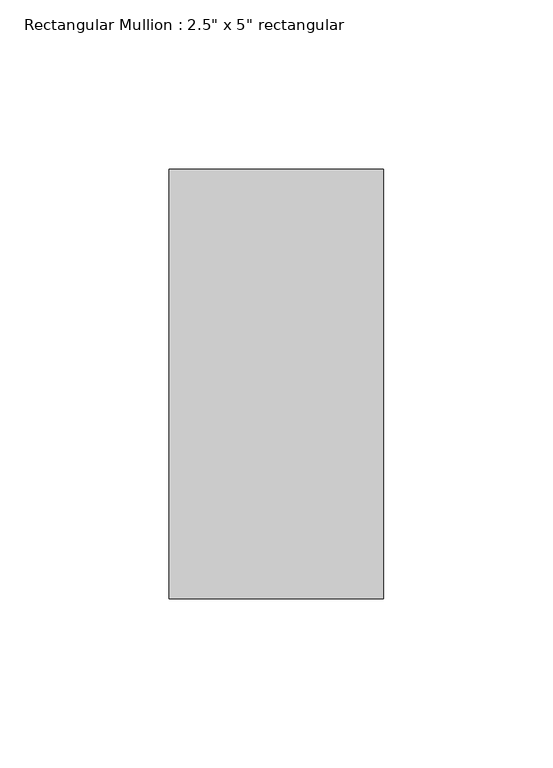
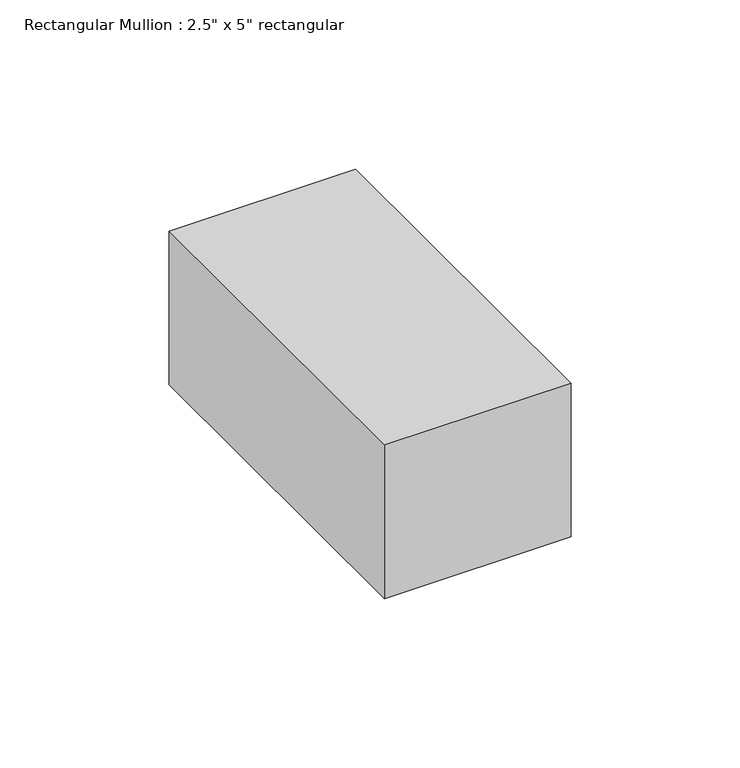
"""IFC4 building model written with IfcOpenShell, lengths in millimetres: member geometry."""

from ifc_helpers import new_model, si_unit, frame, origin, place, context, project, spatial, polyline, outline, extrude, source, transform, mapped, element, save


def member_e47226ae(model_context):
    return source(origin(), model_context, "Body", "SweptSolid", [
        extrude(outline(polyline([(31.75, 63.5), (31.75, -63.5), (-31.75, -63.5), (-31.75, 63.5), (31.75, 63.5)])), frame((0.0, 0.0, -55.3184904), z_axis=(0.0, 0.0, 1.0), x_axis=(1.0, 0.0, 0.0)), (0.0, 0.0, 1.0), 55.3184904),
    ])


if __name__ == "__main__":
    model = new_model("IFC4")
    model_context = context("Model", 3, world=origin())
    ifc_project = project(units=[si_unit("LENGTHUNIT", "METRE", prefix="MILLI")], contexts=[model_context])
    site = spatial("IfcSite", under=ifc_project)
    building = spatial("IfcBuilding", under=site)
    placement = place(None, origin())
    member_shape = member_e47226ae(model_context)
    element("IfcMember", 1, ObjectType="Rectangular Mullion : 2.5\" x 5\" rectangular", at=placement, inside=building, context=model_context, shape_type="MappedRepresentation", body=[
        mapped(member_shape, transform((0.0, 0.0, 0.0), x_axis=(1.0, 0.0, 0.0), y_axis=(0.0, 1.0, 0.0), z_axis=(0.0, 0.0, 1.0))),
    ])
    save(model, "model.ifc")
